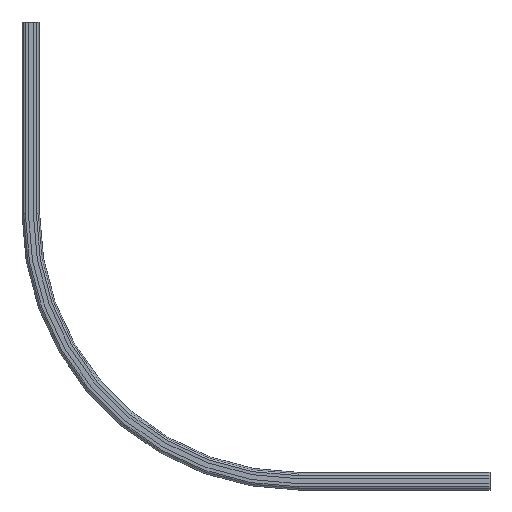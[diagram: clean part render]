
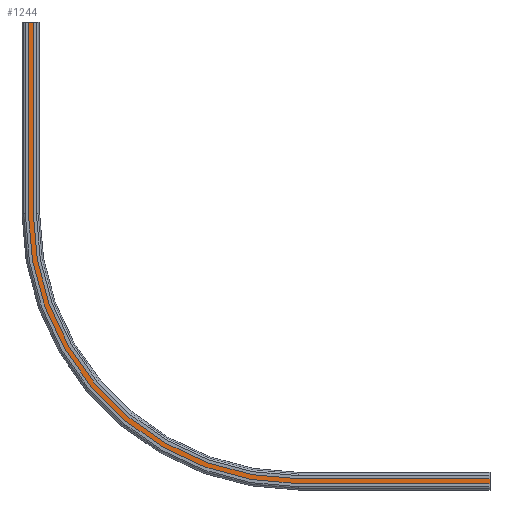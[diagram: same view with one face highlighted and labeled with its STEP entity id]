
A CAD part, front view. The second image highlights one B-rep face of the part: STEP entity #1244.
In plain terms, the highlighted planar face has unit normal (0, -1, 0).
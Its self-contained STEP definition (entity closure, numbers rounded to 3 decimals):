
#45=PLANE('',#1387);
#110=FACE_OUTER_BOUND('',#184,.T.);
#184=EDGE_LOOP('',(#1003,#1004,#1005,#1006,#1007,#1008,#1009,#1010));
#216=LINE('',#1861,#324);
#218=LINE('',#1871,#326);
#277=LINE('',#2109,#385);
#278=LINE('',#2113,#386);
#279=LINE('',#2114,#387);
#280=LINE('',#2115,#388);
#324=VECTOR('',#1450,430.);
#326=VECTOR('',#1460,430.);
#385=VECTOR('',#1725,430.);
#386=VECTOR('',#1730,430.);
#387=VECTOR('',#1731,26.);
#388=VECTOR('',#1732,26.);
#454=CIRCLE('',#1327,613.);
#458=CIRCLE('',#1332,587.);
#509=VERTEX_POINT('',#1858);
#510=VERTEX_POINT('',#1860);
#511=VERTEX_POINT('',#1864);
#514=VERTEX_POINT('',#1869);
#560=VERTEX_POINT('',#1999);
#562=VERTEX_POINT('',#2005);
#590=VERTEX_POINT('',#2108);
#591=VERTEX_POINT('',#2112);
#625=EDGE_CURVE('',#510,#509,#216,.T.);
#630=EDGE_CURVE('',#514,#511,#218,.T.);
#692=EDGE_CURVE('',#560,#510,#454,.T.);
#696=EDGE_CURVE('',#562,#514,#458,.T.);
#747=EDGE_CURVE('',#590,#560,#277,.T.);
#749=EDGE_CURVE('',#591,#562,#278,.T.);
#750=EDGE_CURVE('',#591,#590,#279,.T.);
#751=EDGE_CURVE('',#509,#511,#280,.T.);
#1003=ORIENTED_EDGE('',*,*,#749,.F.);
#1004=ORIENTED_EDGE('',*,*,#750,.T.);
#1005=ORIENTED_EDGE('',*,*,#747,.T.);
#1006=ORIENTED_EDGE('',*,*,#692,.T.);
#1007=ORIENTED_EDGE('',*,*,#625,.T.);
#1008=ORIENTED_EDGE('',*,*,#751,.T.);
#1009=ORIENTED_EDGE('',*,*,#630,.F.);
#1010=ORIENTED_EDGE('',*,*,#696,.F.);
#1244=ADVANCED_FACE('',(#110),#45,.T.);
#1327=AXIS2_PLACEMENT_3D('',#2000,#1587,#1588);
#1332=AXIS2_PLACEMENT_3D('',#2007,#1597,#1598);
#1387=AXIS2_PLACEMENT_3D('',#2111,#1728,#1729);
#1450=DIRECTION('',(1.,0.,0.));
#1460=DIRECTION('',(1.,0.,0.));
#1587=DIRECTION('center_axis',(0.,-1.,0.));
#1588=DIRECTION('ref_axis',(0.,0.,1.));
#1597=DIRECTION('center_axis',(0.,-1.,0.));
#1598=DIRECTION('ref_axis',(0.,0.,1.));
#1725=DIRECTION('',(0.,0.,-1.));
#1728=DIRECTION('center_axis',(0.,-1.,0.));
#1729=DIRECTION('ref_axis',(0.,0.,-1.));
#1730=DIRECTION('',(0.,0.,-1.));
#1731=DIRECTION('',(-1.,0.,0.));
#1732=DIRECTION('',(0.,0.,1.));
#1858=CARTESIAN_POINT('',(1030.,29.,-1043.));
#1860=CARTESIAN_POINT('',(600.,29.,-1043.));
#1861=CARTESIAN_POINT('',(600.,29.,-1043.));
#1864=CARTESIAN_POINT('',(1030.,29.,-1017.));
#1869=CARTESIAN_POINT('',(600.,29.,-1017.));
#1871=CARTESIAN_POINT('',(600.,29.,-1017.));
#1999=CARTESIAN_POINT('',(-13.,29.,-430.));
#2000=CARTESIAN_POINT('Origin',(600.,29.,-430.));
#2005=CARTESIAN_POINT('',(13.,29.,-430.));
#2007=CARTESIAN_POINT('Origin',(600.,29.,-430.));
#2108=CARTESIAN_POINT('',(-13.,29.,0.));
#2109=CARTESIAN_POINT('',(-13.,29.,0.));
#2111=CARTESIAN_POINT('Origin',(-13.,29.,0.));
#2112=CARTESIAN_POINT('',(13.,29.,0.));
#2113=CARTESIAN_POINT('',(13.,29.,0.));
#2114=CARTESIAN_POINT('',(13.,29.,0.));
#2115=CARTESIAN_POINT('',(1030.,29.,-1017.));
